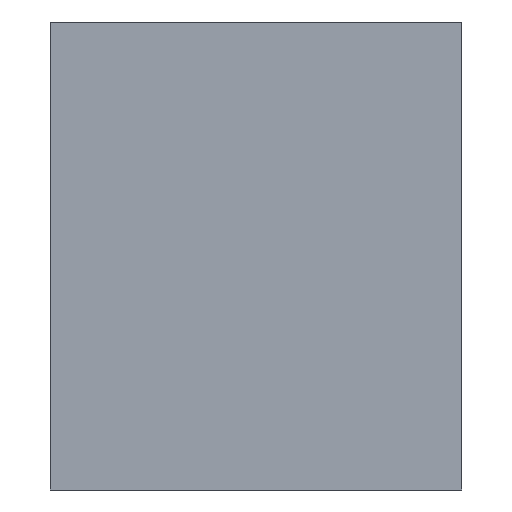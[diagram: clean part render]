
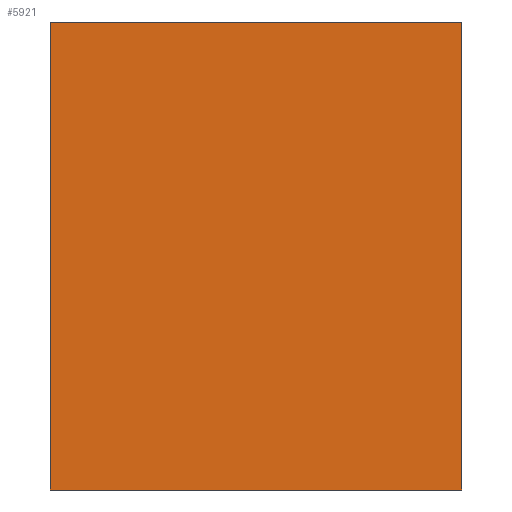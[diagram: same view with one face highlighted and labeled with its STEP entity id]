
A CAD part, left-side view. The second image highlights one B-rep face of the part: STEP entity #5921.
In plain terms, the highlighted planar face has unit normal (-1, 0, 0).
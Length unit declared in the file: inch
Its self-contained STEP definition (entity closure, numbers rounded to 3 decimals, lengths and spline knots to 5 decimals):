
#13 = ORIENTED_EDGE ( 'NONE', *, *, #2121, .T. ) ;
#84 = ORIENTED_EDGE ( 'NONE', *, *, #155, .T. ) ;
#155 = EDGE_CURVE ( 'NONE', #2661, #1401, #5023, .T. ) ;
#428 = CARTESIAN_POINT ( 'NONE',  ( -0.43305, -0.43315, -0.79685 ) ) ;
#589 = EDGE_CURVE ( 'NONE', #1401, #2435, #3832, .T. ) ;
#749 = CARTESIAN_POINT ( 'NONE',  ( -0.43305, -0.43315, -0.5 ) ) ;
#834 = VECTOR ( 'NONE', #5627, 39.37008 ) ;
#1021 = CARTESIAN_POINT ( 'NONE',  ( -0.43305, -0.38, 0.1875 ) ) ;
#1123 = VECTOR ( 'NONE', #1400, 39.37008 ) ;
#1150 = CARTESIAN_POINT ( 'NONE',  ( -0.43305, -0.43315, 0.1875 ) ) ;
#1400 = DIRECTION ( 'NONE',  ( 0., 1., 0. ) ) ;
#1401 = VERTEX_POINT ( 'NONE', #1150 ) ;
#2121 = EDGE_CURVE ( 'NONE', #2435, #4311, #2295, .T. ) ;
#2295 = LINE ( 'NONE', #4191, #834 ) ;
#2336 = FACE_OUTER_BOUND ( 'NONE', #5372, .T. ) ;
#2435 = VERTEX_POINT ( 'NONE', #5388 ) ;
#2534 = VECTOR ( 'NONE', #5922, 39.37008 ) ;
#2661 = VERTEX_POINT ( 'NONE', #428 ) ;
#3242 = LINE ( 'NONE', #4632, #5873 ) ;
#3270 = DIRECTION ( 'NONE',  ( 0., 0., 1. ) ) ;
#3314 = CARTESIAN_POINT ( 'NONE',  ( -0.43305, 0.43315, -0.79685 ) ) ;
#3703 = PLANE ( 'NONE',  #5576 ) ;
#3766 = DIRECTION ( 'NONE',  ( 0., 1., 0. ) ) ;
#3832 = LINE ( 'NONE', #1021, #1123 ) ;
#4191 = CARTESIAN_POINT ( 'NONE',  ( -0.43305, 0.43315, 1.31591 ) ) ;
#4311 = VERTEX_POINT ( 'NONE', #3314 ) ;
#4632 = CARTESIAN_POINT ( 'NONE',  ( -0.43305, -0.38, -0.79685 ) ) ;
#5023 = LINE ( 'NONE', #749, #2534 ) ;
#5167 = ORIENTED_EDGE ( 'NONE', *, *, #5871, .F. ) ;
#5372 = EDGE_LOOP ( 'NONE', ( #13, #5167, #84, #5458 ) ) ;
#5388 = CARTESIAN_POINT ( 'NONE',  ( -0.43305, 0.43315, 0.1875 ) ) ;
#5458 = ORIENTED_EDGE ( 'NONE', *, *, #589, .T. ) ;
#5565 = DIRECTION ( 'NONE',  ( -1., 0., 0. ) ) ;
#5576 = AXIS2_PLACEMENT_3D ( 'NONE', #5599, #5565, #3270 ) ;
#5599 = CARTESIAN_POINT ( 'NONE',  ( -0.43305, 0.12, -0.15625 ) ) ;
#5627 = DIRECTION ( 'NONE',  ( 0., 0., -1. ) ) ;
#5871 = EDGE_CURVE ( 'NONE', #2661, #4311, #3242, .T. ) ;
#5873 = VECTOR ( 'NONE', #3766, 39.37008 ) ;
#5921 = ADVANCED_FACE ( 'NONE', ( #2336 ), #3703, .T. ) ;
#5922 = DIRECTION ( 'NONE',  ( 0., 0., 1. ) ) ;
